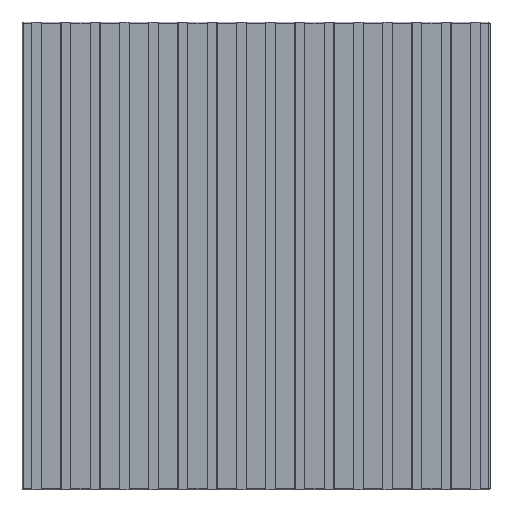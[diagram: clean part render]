
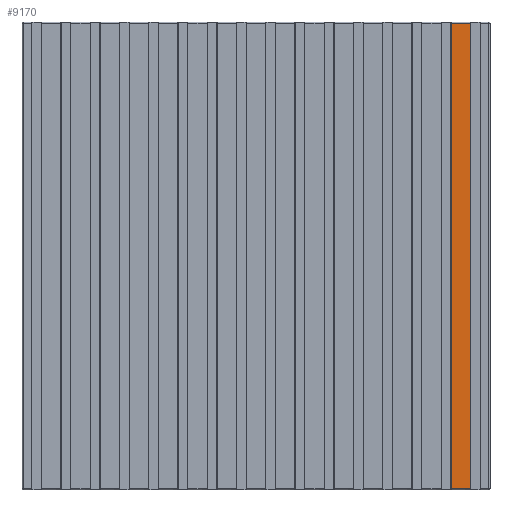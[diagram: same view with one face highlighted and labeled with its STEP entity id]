
A CAD part, front view. The second image highlights one B-rep face of the part: STEP entity #9170.
In plain terms, the highlighted planar face has unit normal (0, -1, 0).
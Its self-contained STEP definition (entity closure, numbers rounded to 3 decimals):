
#328=PLANE('',#9799);
#799=FACE_OUTER_BOUND('',#1287,.T.);
#1287=EDGE_LOOP('',(#8240,#8241,#8242,#8243));
#1664=LINE('',#12948,#2836);
#1667=LINE('',#12957,#2839);
#2112=LINE('',#13924,#3284);
#2113=LINE('',#13926,#3285);
#2836=VECTOR('',#10324,10.);
#2839=VECTOR('',#10333,10.);
#3284=VECTOR('',#11026,10.);
#3285=VECTOR('',#11029,10.);
#4150=VERTEX_POINT('',#12945);
#4151=VERTEX_POINT('',#12947);
#4154=VERTEX_POINT('',#12955);
#4552=VERTEX_POINT('',#13922);
#5055=EDGE_CURVE('',#4150,#4151,#1664,.T.);
#5060=EDGE_CURVE('',#4150,#4154,#1667,.T.);
#5565=EDGE_CURVE('',#4552,#4154,#2112,.T.);
#5566=EDGE_CURVE('',#4151,#4552,#2113,.T.);
#8240=ORIENTED_EDGE('',*,*,#5055,.F.);
#8241=ORIENTED_EDGE('',*,*,#5060,.T.);
#8242=ORIENTED_EDGE('',*,*,#5565,.F.);
#8243=ORIENTED_EDGE('',*,*,#5566,.F.);
#9170=ADVANCED_FACE('',(#799),#328,.F.);
#9799=AXIS2_PLACEMENT_3D('',#14837,#12038,#12039);
#10324=DIRECTION('',(-1.,0.,0.));
#10333=DIRECTION('',(0.,0.,1.));
#11026=DIRECTION('',(1.,0.,0.));
#11029=DIRECTION('',(0.,0.,1.));
#12038=DIRECTION('center_axis',(0.,1.,0.));
#12039=DIRECTION('ref_axis',(-1.,0.,0.));
#12945=CARTESIAN_POINT('',(148.3,-6.,0.5));
#12947=CARTESIAN_POINT('',(141.7,-6.,0.5));
#12948=CARTESIAN_POINT('',(71.125,-6.,0.5));
#12955=CARTESIAN_POINT('',(148.3,-6.,159.5));
#12957=CARTESIAN_POINT('',(148.3,-6.,0.));
#13922=CARTESIAN_POINT('',(141.7,-6.,159.5));
#13924=CARTESIAN_POINT('',(71.125,-6.,159.5));
#13926=CARTESIAN_POINT('',(141.7,-6.,0.));
#14837=CARTESIAN_POINT('Origin',(142.25,-6.,0.));
